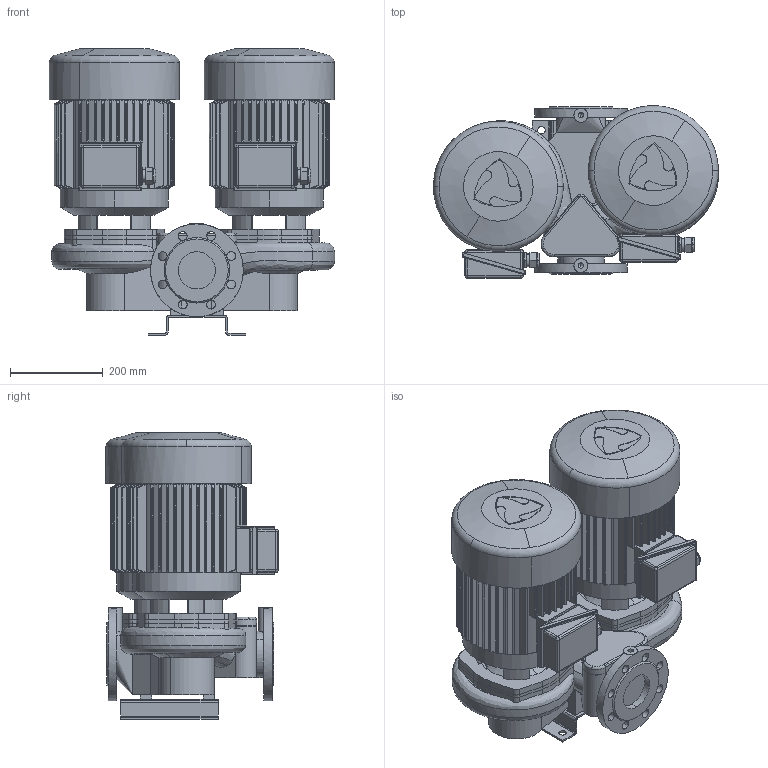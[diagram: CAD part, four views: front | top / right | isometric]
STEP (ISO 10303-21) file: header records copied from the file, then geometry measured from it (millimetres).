
FILE_DESCRIPTION(('STEP AP214'),'1');
FILE_NAME('export.stp','2018-05-30T07:54:13',(' '),(' '),'Spatial InterOp 3D',' ',' ');
FILE_SCHEMA(('AUTOMOTIVE_DESIGN { 1 0 10303 214 1 1 1 1 }'));
Length unit declared in the file: millimetre
Products named in the file (15): W_T80A2750_KP132; V_TLL65AB80A1102; V_PPT80A; V_JALKA35973; V_MOKN132; RU_OKN_132; TSUOJA_OKN_132_133; KYTKOTELO_OKN_100_133; V_Mkp-132_F19; V_EKF19OKN132
Assembly tree (16 placements, depth 4):
  W_T80A2750_KP132
    V_TLL65AB80A1102  x2
    V_PPT80A
    V_JALKA35973
    V_Mkp-132_F19
      V_MOKN132
        RU_OKN_132
        TSUOJA_OKN_132_133
        KYTKOTELO_OKN_100_133
      V_EKF19OKN132
    V_Mkp-132_F19
      V_MOKN132
        RU_OKN_132
        TSUOJA_OKN_132_133
        KYTKOTELO_OKN_100_133
      V_EKF19OKN132
Bounding box: 614.81 x 371.42 x 617.5 mm (x, y, z)
Volume: 57125512.1 mm3; surface area: 3219289.3 mm2
Topology: 12 solids, 15 shells, 1447 faces, 3749 edges, 2336 vertices
Faces by surface type: cylinder 635, plane 543, cone 176, bspline 39, torus 30, sphere 24
Entity records: 72981 total; most frequent: CARTESIAN_POINT 16278, ORIENTED_EDGE 6994, DIRECTION 6490, STYLED_ITEM 4085, PRESENTATION_STYLE_ASSIGNMENT 4085, COLOUR_RGB 4085, EDGE_CURVE 3497, CURVE_STYLE 2710
